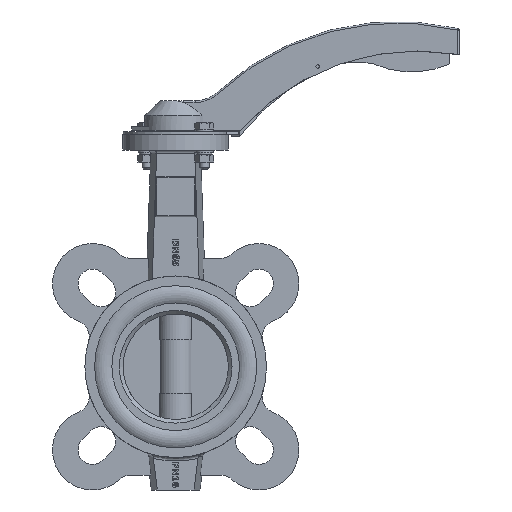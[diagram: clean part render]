
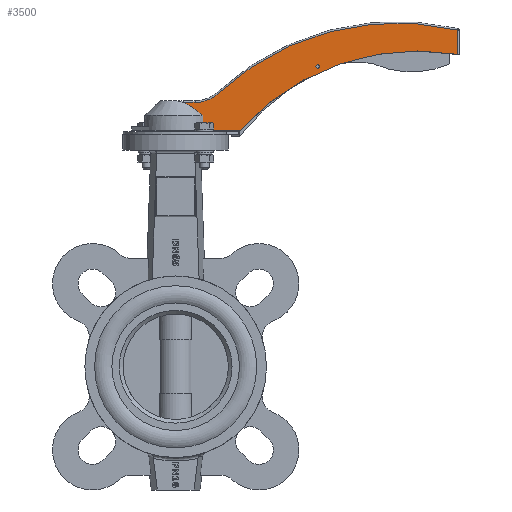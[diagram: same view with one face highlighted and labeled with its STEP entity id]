
A CAD part, left-side view. The second image highlights one B-rep face of the part: STEP entity #3500.
In plain terms, the highlighted planar face has unit normal (-1, 0, 0) as drawn and (0, -1, 0) by its records, which use the part's own axes.
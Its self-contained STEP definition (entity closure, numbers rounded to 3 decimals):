
#3500=ADVANCED_FACE('',(#7106,#7108),#7110,.F.);
#7106=FACE_BOUND('',#7107,.T.);
#7107=EDGE_LOOP('',(#10879,#10880,#10881,#10882,#10883,#10884,#10885,#10886));
#7108=FACE_BOUND('',#7109,.T.);
#7109=EDGE_LOOP('',(#10887));
#7110=PLANE('',#7111);
#7111=AXIS2_PLACEMENT_3D('',#7112,#7113,#7114);
#7112=CARTESIAN_POINT('',(0.,-9.375,0.));
#7113=DIRECTION('',(0.,1.,0.));
#7114=DIRECTION('',(-1.,0.,0.));
#10879=ORIENTED_EDGE('',*,*,#12412,.F.);
#10880=ORIENTED_EDGE('',*,*,#12413,.T.);
#10881=ORIENTED_EDGE('',*,*,#12375,.T.);
#10882=ORIENTED_EDGE('',*,*,#12363,.F.);
#10883=ORIENTED_EDGE('',*,*,#12409,.F.);
#10884=ORIENTED_EDGE('',*,*,#12414,.F.);
#10885=ORIENTED_EDGE('',*,*,#12415,.F.);
#10886=ORIENTED_EDGE('',*,*,#12416,.F.);
#10887=ORIENTED_EDGE('',*,*,#12417,.T.);
#12363=EDGE_CURVE('',#14504,#14506,#14507,.T.);
#12375=EDGE_CURVE('',#14528,#14506,#14529,.T.);
#12409=EDGE_CURVE('',#14586,#14504,#14589,.T.);
#12412=EDGE_CURVE('',#14593,#14594,#14595,.T.);
#12413=EDGE_CURVE('',#14593,#14528,#14596,.T.);
#12414=EDGE_CURVE('',#14597,#14586,#14598,.T.);
#12415=EDGE_CURVE('',#14599,#14597,#14600,.T.);
#12416=EDGE_CURVE('',#14594,#14599,#14601,.T.);
#12417=EDGE_CURVE('',#14602,#14602,#14603,.T.);
#14504=VERTEX_POINT('',#21058);
#14506=VERTEX_POINT('',#21062);
#14507=LINE('',#21063,#21064);
#14528=VERTEX_POINT('',#21111);
#14529=LINE('',#21112,#21113);
#14586=VERTEX_POINT('',#21382);
#14589=CIRCLE('',#21444,146.685);
#14593=VERTEX_POINT('',#21456);
#14594=VERTEX_POINT('',#21457);
#14595=LINE('',#21458,#21459);
#14596=B_SPLINE_CURVE_WITH_KNOTS('',3,
(#21461,#21462,#21463,#21464,#21465,#21466,#21467,#21468,#21469,#21470,#21471,#21472,
#21473,#21474,#21475,#21476,#21477,#21478,#21479,#21480,#21481,#21482,#21483,#21484,
#21485,#21486,#21487,#21488,#21489,#21490,#21491,#21492,#21493,#21494,#21495,#21496,
#21497,#21498,#21499,#21500),
.UNSPECIFIED.,.F.,.F.,
(4,1,1,1,1,1,1,1,1,1,1,1,1,1,1,1,1,1,1,1,1,1,1,1,1,1,1,1,1,1,1,1,1,1,1,1,1,4),
(0.,0.02,0.04,0.06,0.08,0.08,
0.1,0.121,0.141,0.161,0.181,
0.202,0.219,0.224,0.246,0.269,
0.294,0.32,0.357,0.369,0.396,
0.437,0.472,0.507,0.546,0.585,
0.586,0.627,0.67,0.714,0.759,
0.805,0.834,0.853,0.901,0.95,
0.978,1.),
.UNSPECIFIED.);
#14597=VERTEX_POINT('',#21501);
#14598=LINE('',#21502,#21503);
#14599=VERTEX_POINT('',#21505);
#14600=CIRCLE('',#21506,161.707);
#14601=CIRCLE('',#21510,21.);
#14602=VERTEX_POINT('',#21514);
#14603=CIRCLE('',#21515,1.);
#21058=CARTESIAN_POINT('',(40.,-9.375,0.));
#21062=CARTESIAN_POINT('',(16.749,-9.375,0.));
#21063=CARTESIAN_POINT('',(40.,-9.375,0.));
#21064=VECTOR('',#21065,1.);
#21065=DIRECTION('',(-1.,0.,0.));
#21111=CARTESIAN_POINT('',(16.749,-9.375,9.));
#21112=CARTESIAN_POINT('',(16.749,-9.375,9.));
#21113=VECTOR('',#21114,1.);
#21114=DIRECTION('',(0.,0.,-1.));
#21382=CARTESIAN_POINT('',(174.,-9.375,46.665));
#21444=AXIS2_PLACEMENT_3D('',#21445,#21446,#21447);
#21445=CARTESIAN_POINT('',(149.223,-9.375,-97.912));
#21446=DIRECTION('',(0.,-1.,0.));
#21447=DIRECTION('',(0.169,0.,0.986));
#21456=CARTESIAN_POINT('',(4.653,-9.375,17.));
#21457=CARTESIAN_POINT('',(12.009,-9.375,17.));
#21458=CARTESIAN_POINT('',(4.653,-9.375,17.));
#21459=VECTOR('',#21460,1.);
#21460=DIRECTION('',(1.,0.,0.));
#21461=CARTESIAN_POINT('',(4.653,-9.375,17.));
#21462=CARTESIAN_POINT('',(4.742,-9.375,16.963));
#21463=CARTESIAN_POINT('',(4.922,-9.375,16.889));
#21464=CARTESIAN_POINT('',(5.189,-9.375,16.772));
#21465=CARTESIAN_POINT('',(5.455,-9.375,16.652));
#21466=CARTESIAN_POINT('',(5.631,-9.375,16.569));
#21467=CARTESIAN_POINT('',(5.807,-9.375,16.485));
#21468=CARTESIAN_POINT('',(5.983,-9.375,16.4));
#21469=CARTESIAN_POINT('',(6.246,-9.375,16.268));
#21470=CARTESIAN_POINT('',(6.507,-9.375,16.133));
#21471=CARTESIAN_POINT('',(6.768,-9.375,15.995));
#21472=CARTESIAN_POINT('',(7.03,-9.375,15.853));
#21473=CARTESIAN_POINT('',(7.277,-9.375,15.716));
#21474=CARTESIAN_POINT('',(7.455,-9.375,15.614));
#21475=CARTESIAN_POINT('',(7.64,-9.375,15.508));
#21476=CARTESIAN_POINT('',(7.85,-9.375,15.386));
#21477=CARTESIAN_POINT('',(8.143,-9.375,15.212));
#21478=CARTESIAN_POINT('',(8.449,-9.375,15.026));
#21479=CARTESIAN_POINT('',(8.81,-9.375,14.802));
#21480=CARTESIAN_POINT('',(9.118,-9.375,14.607));
#21481=CARTESIAN_POINT('',(9.428,-9.375,14.406));
#21482=CARTESIAN_POINT('',(9.755,-9.375,14.193));
#21483=CARTESIAN_POINT('',(10.168,-9.375,13.918));
#21484=CARTESIAN_POINT('',(10.614,-9.375,13.614));
#21485=CARTESIAN_POINT('',(11.045,-9.375,13.315));
#21486=CARTESIAN_POINT('',(11.495,-9.375,12.998));
#21487=CARTESIAN_POINT('',(11.806,-9.375,12.775));
#21488=CARTESIAN_POINT('',(12.128,-9.375,12.543));
#21489=CARTESIAN_POINT('',(12.459,-9.375,12.303));
#21490=CARTESIAN_POINT('',(12.956,-9.375,11.936));
#21491=CARTESIAN_POINT('',(13.467,-9.375,11.554));
#21492=CARTESIAN_POINT('',(13.992,-9.375,11.156));
#21493=CARTESIAN_POINT('',(14.456,-9.375,10.801));
#21494=CARTESIAN_POINT('',(14.817,-9.375,10.522));
#21495=CARTESIAN_POINT('',(15.184,-9.375,10.237));
#21496=CARTESIAN_POINT('',(15.628,-9.375,9.89));
#21497=CARTESIAN_POINT('',(16.103,-9.375,9.514));
#21498=CARTESIAN_POINT('',(16.477,-9.375,9.217));
#21499=CARTESIAN_POINT('',(16.665,-9.375,9.067));
#21500=CARTESIAN_POINT('',(16.749,-9.375,9.));
#21501=CARTESIAN_POINT('',(174.,-9.375,61.604));
#21502=CARTESIAN_POINT('',(174.,-9.375,61.604));
#21503=VECTOR('',#21504,1.);
#21504=DIRECTION('',(0.,0.,-1.));
#21505=CARTESIAN_POINT('',(26.322,-9.375,22.633));
#21506=AXIS2_PLACEMENT_3D('',#21507,#21508,#21509);
#21507=CARTESIAN_POINT('',(136.531,-9.375,-95.703));
#21508=DIRECTION('',(0.,1.,0.));
#21509=DIRECTION('',(-0.682,0.,0.732));
#21510=AXIS2_PLACEMENT_3D('',#21511,#21512,#21513);
#21511=CARTESIAN_POINT('',(12.009,-9.375,38.));
#21512=DIRECTION('',(0.,-1.,0.));
#21513=DIRECTION('',(0.,0.,-1.));
#21514=CARTESIAN_POINT('',(86.5,-9.375,39.154));
#21515=AXIS2_PLACEMENT_3D('',#21516,#21517,#21518);
#21516=CARTESIAN_POINT('',(87.5,-9.375,39.154));
#21517=DIRECTION('',(0.,1.,0.));
#21518=DIRECTION('',(-1.,0.,0.));
